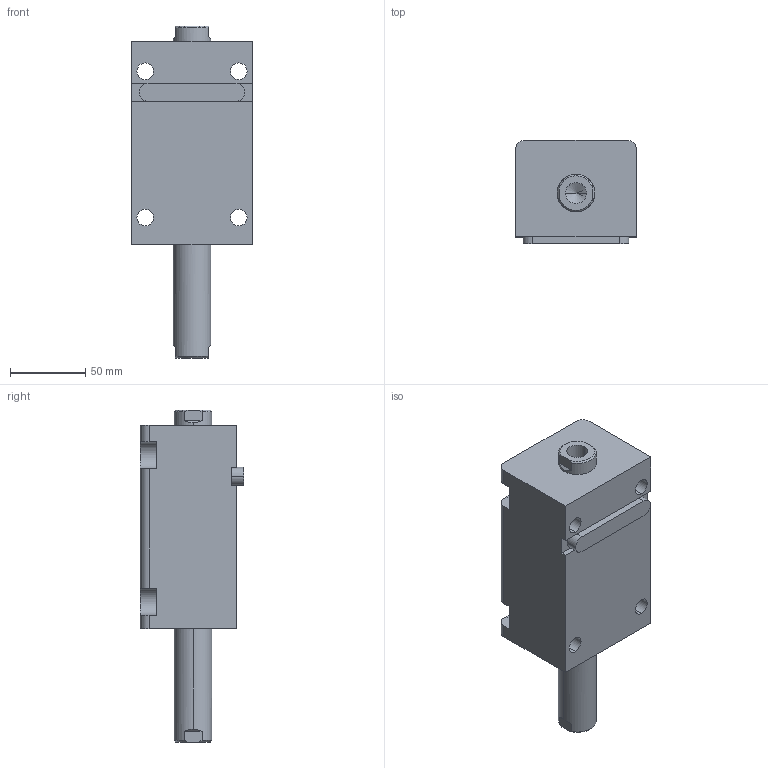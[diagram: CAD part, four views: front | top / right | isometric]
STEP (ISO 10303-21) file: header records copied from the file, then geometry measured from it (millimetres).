
FILE_DESCRIPTION (( 'STEP AP203' ), '1' );
FILE_NAME ('HTB-LW40-65N.STEP', '2019-10-09T07:57:15', ( '微软用户' ), ( '微软中国' ), 'SwSTEP 2.0', 'SolidWorks 2012', '' );
FILE_SCHEMA (( 'CONFIG_CONTROL_DESIGN' ));
Length unit declared in the file: millimetre
Products named in the file (4): HTB-LW40-65N; HTB-LA40-瑩; HTB-LW40-65N活塞杆; HTB-LW40-65掛极
Assembly tree (3 placements, depth 2):
  HTB-LW40-65N
    HTB-LW40-65掛极
    HTB-LW40-65N活塞杆
    HTB-LA40-瑩
Bounding box: 80 x 68.5 x 220 mm (x, y, z)
Volume: 642032.2 mm3; surface area: 97761.6 mm2
Topology: 3 solids, 3 shells, 105 faces, 261 edges, 168 vertices
Faces by surface type: plane 44, cylinder 41, cone 12, torus 8
Entity records: 3567 total; most frequent: CARTESIAN_POINT 588, DIRECTION 573, ORIENTED_EDGE 514, EDGE_CURVE 257, AXIS2_PLACEMENT_3D 221, VERTEX_POINT 168, LINE 131, VECTOR 131
